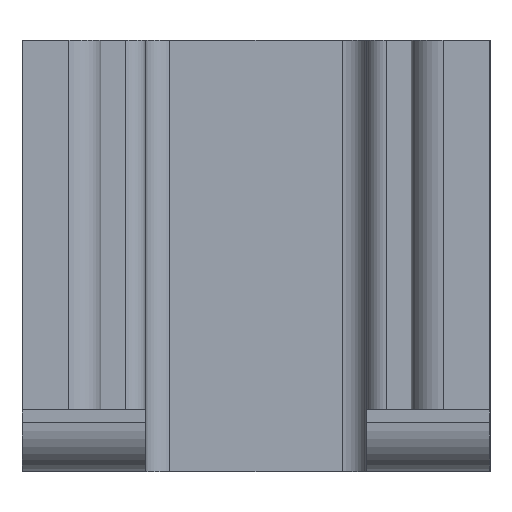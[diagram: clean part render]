
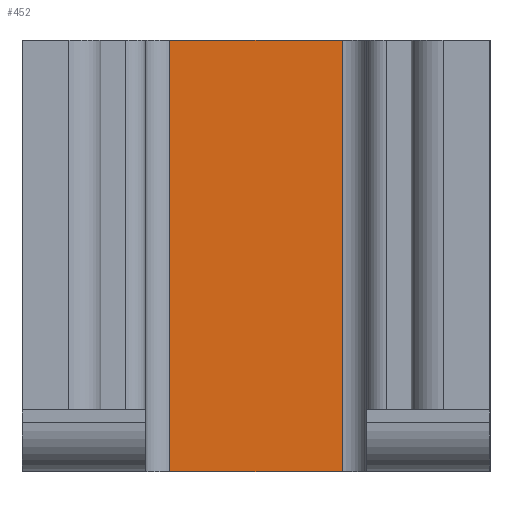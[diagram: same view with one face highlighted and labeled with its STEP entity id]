
A CAD part, front view. The second image highlights one B-rep face of the part: STEP entity #452.
In plain terms, the highlighted planar face has unit normal (0, -1, 0).
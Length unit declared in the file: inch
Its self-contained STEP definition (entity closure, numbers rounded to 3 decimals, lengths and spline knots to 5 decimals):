
#42 = CARTESIAN_POINT ( 'NONE',  ( 0.1378, 0.35811, 0.59055 ) ) ;
#54 = VERTEX_POINT ( 'NONE', #749 ) ;
#74 = VECTOR ( 'NONE', #1055, 39.37008 ) ;
#121 = DIRECTION ( 'NONE',  ( 0., 0., 1. ) ) ;
#225 = CARTESIAN_POINT ( 'NONE',  ( -0.1378, 0.35811, -0.81163 ) ) ;
#243 = ORIENTED_EDGE ( 'NONE', *, *, #546, .F. ) ;
#271 = DIRECTION ( 'NONE',  ( -1., 0., 0. ) ) ;
#291 = EDGE_CURVE ( 'NONE', #54, #342, #312, .T. ) ;
#299 = ORIENTED_EDGE ( 'NONE', *, *, #291, .T. ) ;
#312 = LINE ( 'NONE', #555, #878 ) ;
#313 = CARTESIAN_POINT ( 'NONE',  ( -0.1378, 0.35811, -0.09843 ) ) ;
#318 = DIRECTION ( 'NONE',  ( 0., -1., 0. ) ) ;
#342 = VERTEX_POINT ( 'NONE', #42 ) ;
#362 = CARTESIAN_POINT ( 'NONE',  ( 0.1378, 0.35811, -0.09843 ) ) ;
#423 = EDGE_CURVE ( 'NONE', #435, #488, #979, .T. ) ;
#435 = VERTEX_POINT ( 'NONE', #313 ) ;
#444 = LINE ( 'NONE', #448, #969 ) ;
#446 = LINE ( 'NONE', #362, #501 ) ;
#448 = CARTESIAN_POINT ( 'NONE',  ( -0.1378, 0.35811, 0.59055 ) ) ;
#452 = ADVANCED_FACE ( 'NONE', ( #715 ), #656, .T. ) ;
#488 = VERTEX_POINT ( 'NONE', #1005 ) ;
#501 = VECTOR ( 'NONE', #271, 39.37008 ) ;
#546 = EDGE_CURVE ( 'NONE', #54, #435, #446, .T. ) ;
#555 = CARTESIAN_POINT ( 'NONE',  ( 0.1378, 0.35811, -0.81163 ) ) ;
#636 = ORIENTED_EDGE ( 'NONE', *, *, #762, .F. ) ;
#656 = PLANE ( 'NONE',  #859 ) ;
#694 = ORIENTED_EDGE ( 'NONE', *, *, #423, .F. ) ;
#713 = DIRECTION ( 'NONE',  ( 1., 0., 0. ) ) ;
#715 = FACE_OUTER_BOUND ( 'NONE', #789, .T. ) ;
#741 = CARTESIAN_POINT ( 'NONE',  ( -0.1378, 0.35811, -0.81163 ) ) ;
#749 = CARTESIAN_POINT ( 'NONE',  ( 0.1378, 0.35811, -0.09843 ) ) ;
#762 = EDGE_CURVE ( 'NONE', #488, #342, #444, .T. ) ;
#789 = EDGE_LOOP ( 'NONE', ( #694, #243, #299, #636 ) ) ;
#859 = AXIS2_PLACEMENT_3D ( 'NONE', #741, #318, #907 ) ;
#878 = VECTOR ( 'NONE', #121, 39.37008 ) ;
#907 = DIRECTION ( 'NONE',  ( 0., 0., -1. ) ) ;
#969 = VECTOR ( 'NONE', #713, 39.37008 ) ;
#979 = LINE ( 'NONE', #225, #74 ) ;
#1005 = CARTESIAN_POINT ( 'NONE',  ( -0.1378, 0.35811, 0.59055 ) ) ;
#1055 = DIRECTION ( 'NONE',  ( 0., 0., 1. ) ) ;
